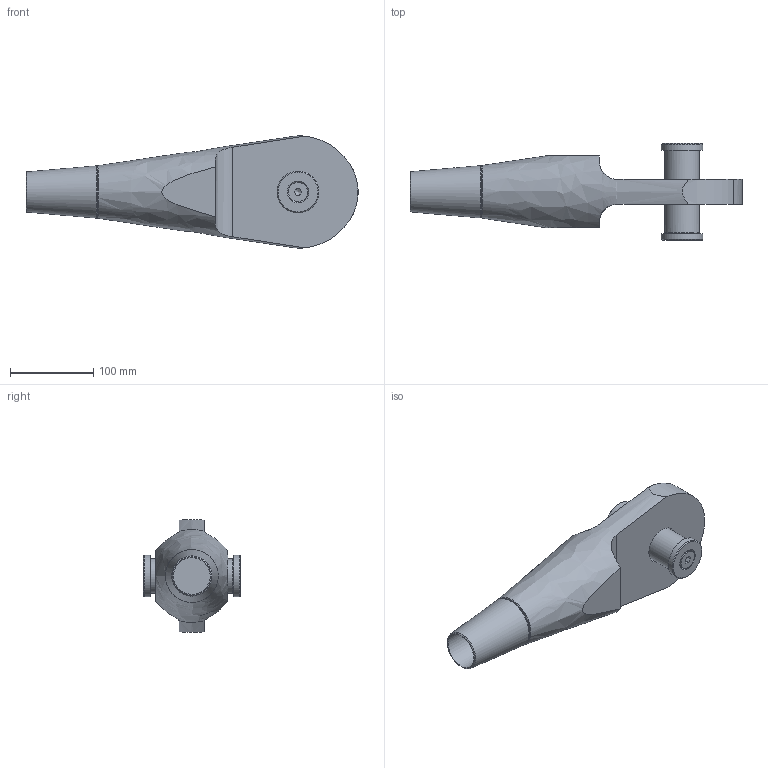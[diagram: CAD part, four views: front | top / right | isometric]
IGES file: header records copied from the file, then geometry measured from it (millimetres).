
Global section: file name: 520-042-OES; native system: Autodesk Inventor 2016; preprocessor: unknown; author: Administrator; date: 20200626.103402; units: centimetre
Bounding box: 397.91 x 116.44 x 134.74 mm (x, y, z)
Volume: 1609048.2 mm3; surface area: 140509.7 mm2
Topology: 2 solids, 4 shells, 49 faces, 120 edges, 82 vertices
Faces by surface type: bspline 49
